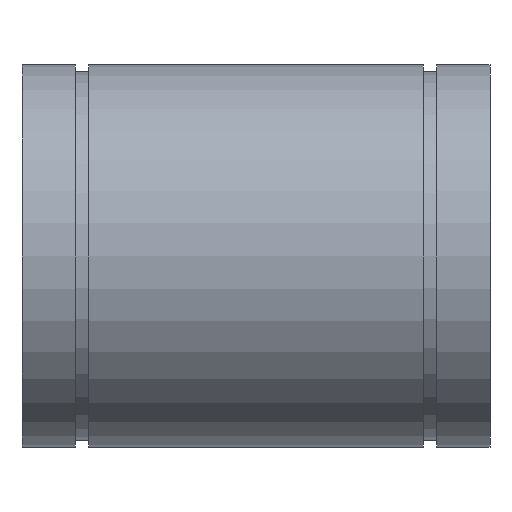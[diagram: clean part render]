
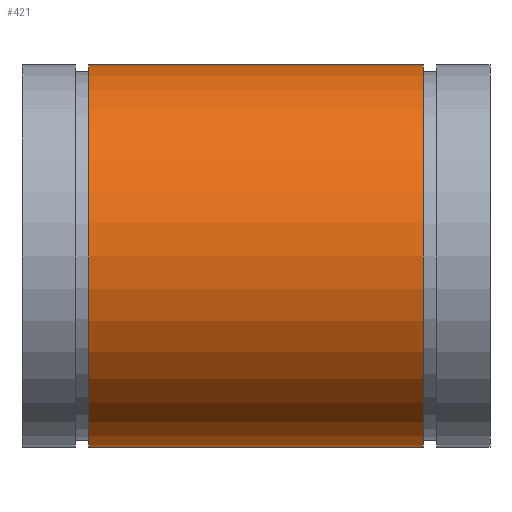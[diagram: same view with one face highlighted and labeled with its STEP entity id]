
A CAD part, front view. The second image highlights one B-rep face of the part: STEP entity #421.
In plain terms, the highlighted cylindrical face has radius 45 mm (diameter 90 mm), a partial arc.
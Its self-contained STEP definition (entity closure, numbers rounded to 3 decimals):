
#9 = EDGE_CURVE ( 'NONE', #290, #215, #239, .T. ) ;
#28 = AXIS2_PLACEMENT_3D ( 'NONE', #155, #280, #204 ) ;
#50 = DIRECTION ( 'NONE',  ( 0., 0., -1. ) ) ;
#89 = DIRECTION ( 'NONE',  ( -1., 0., 0. ) ) ;
#104 = EDGE_CURVE ( 'NONE', #215, #314, #167, .T. ) ;
#112 = CARTESIAN_POINT ( 'NONE',  ( 39.35, 0., 45. ) ) ;
#113 = EDGE_CURVE ( 'NONE', #290, #474, #242, .T. ) ;
#121 = DIRECTION ( 'NONE',  ( 1., 0., 0. ) ) ;
#125 = CARTESIAN_POINT ( 'NONE',  ( 55., 0., 45. ) ) ;
#128 = DIRECTION ( 'NONE',  ( 1., 0., 0. ) ) ;
#153 = CIRCLE ( 'NONE', #409, 45. ) ;
#155 = CARTESIAN_POINT ( 'NONE',  ( 55., 0., 0. ) ) ;
#167 = LINE ( 'NONE', #281, #227 ) ;
#177 = ORIENTED_EDGE ( 'NONE', *, *, #397, .T. ) ;
#195 = CARTESIAN_POINT ( 'NONE',  ( -39.35, 0., 45. ) ) ;
#198 = FACE_OUTER_BOUND ( 'NONE', #328, .T. ) ;
#204 = DIRECTION ( 'NONE',  ( 0., 0., -1. ) ) ;
#215 = VERTEX_POINT ( 'NONE', #377 ) ;
#227 = VECTOR ( 'NONE', #406, 1000. ) ;
#239 = CIRCLE ( 'NONE', #356, 45. ) ;
#242 = LINE ( 'NONE', #125, #467 ) ;
#258 = ORIENTED_EDGE ( 'NONE', *, *, #113, .T. ) ;
#280 = DIRECTION ( 'NONE',  ( -1., 0., 0. ) ) ;
#281 = CARTESIAN_POINT ( 'NONE',  ( 55., 0., -45. ) ) ;
#290 = VERTEX_POINT ( 'NONE', #112 ) ;
#304 = ORIENTED_EDGE ( 'NONE', *, *, #104, .F. ) ;
#312 = CARTESIAN_POINT ( 'NONE',  ( -39.35, 0., 0. ) ) ;
#314 = VERTEX_POINT ( 'NONE', #498 ) ;
#328 = EDGE_LOOP ( 'NONE', ( #410, #258, #177, #304 ) ) ;
#356 = AXIS2_PLACEMENT_3D ( 'NONE', #367, #128, #50 ) ;
#357 = DIRECTION ( 'NONE',  ( 0., 0., -1. ) ) ;
#367 = CARTESIAN_POINT ( 'NONE',  ( 39.35, 0., 0. ) ) ;
#377 = CARTESIAN_POINT ( 'NONE',  ( 39.35, 0., -45. ) ) ;
#397 = EDGE_CURVE ( 'NONE', #474, #314, #153, .T. ) ;
#406 = DIRECTION ( 'NONE',  ( -1., 0., 0. ) ) ;
#409 = AXIS2_PLACEMENT_3D ( 'NONE', #312, #121, #357 ) ;
#410 = ORIENTED_EDGE ( 'NONE', *, *, #9, .F. ) ;
#421 = ADVANCED_FACE ( 'NONE', ( #198 ), #507, .T. ) ;
#467 = VECTOR ( 'NONE', #89, 1000. ) ;
#474 = VERTEX_POINT ( 'NONE', #195 ) ;
#498 = CARTESIAN_POINT ( 'NONE',  ( -39.35, 0., -45. ) ) ;
#507 = CYLINDRICAL_SURFACE ( 'NONE', #28, 45. ) ;
